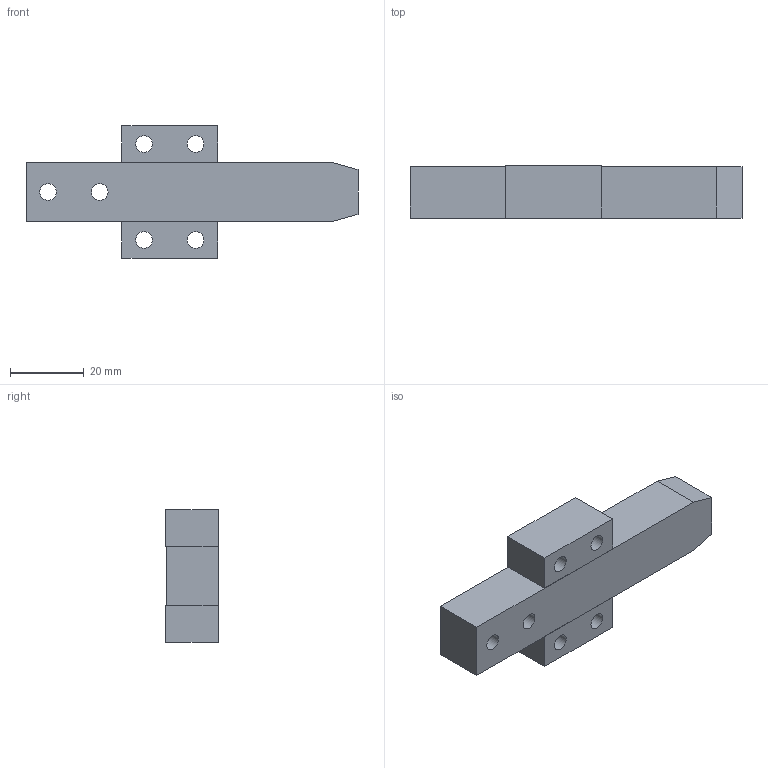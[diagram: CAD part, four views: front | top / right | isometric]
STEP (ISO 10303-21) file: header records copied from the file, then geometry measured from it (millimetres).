
FILE_DESCRIPTION(/* description */ ('STEP AP214'),/* implementation_level */ '2;1');
FILE_NAME(/* name */ 'F1320016010064',/* time_stamp */ '2024-09-18T15:11:55+02:00',/* author */ ('License CC BY-ND 4.0'),/* organization */ ('CADENAS'),/* preprocessor_version */ 'ST-DEVELOPER v19.3',/* originating_system */ 'PARTsolutions',/* authorisation */ ' ');
FILE_SCHEMA (('AUTOMOTIVE_DESIGN {1 0 10303 214 3 1 1}'));
Length unit declared in the file: millimetre
Products named in the file (3): F1320016010064; F1323016090; F1321026010
Assembly tree (3 placements, depth 2):
  F1320016010064
    F1323016090
    F1321026010  x2
Bounding box: 90 x 14.2 x 36 mm (x, y, z)
Volume: 25245.8 mm3; surface area: 10122.2 mm2
Topology: 3 solids, 3 shells, 38 faces, 78 edges, 52 vertices
Faces by surface type: plane 26, cylinder 12
Full cylindrical faces by diameter (mm): 4.5 x6, 7.5 x6
Entity records: 754 total; most frequent: DIRECTION 122, CARTESIAN_POINT 112, ORIENTED_EDGE 92, EDGE_CURVE 46, EDGE_LOOP 46, FACE_BOUND 46, AXIS2_PLACEMENT_3D 46, VERTEX_POINT 36
